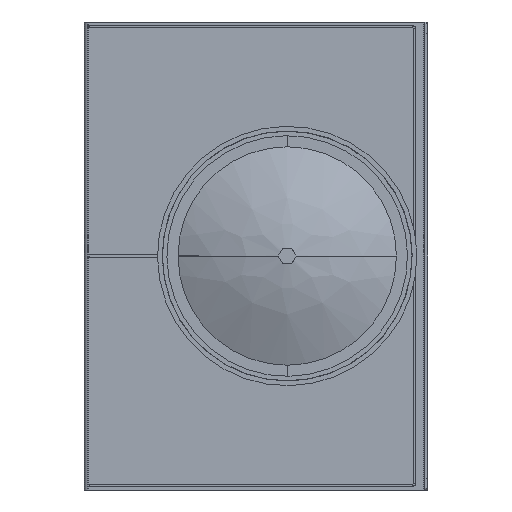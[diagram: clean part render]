
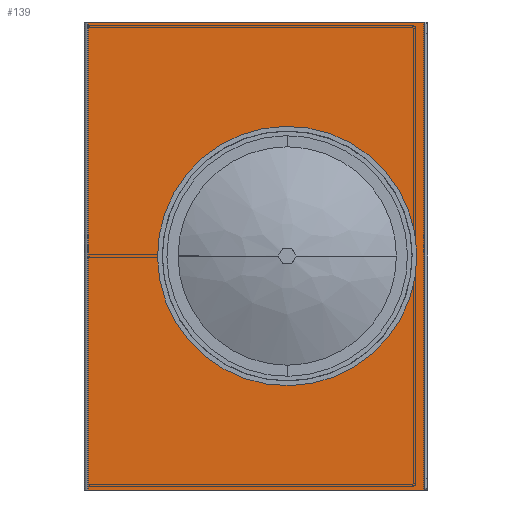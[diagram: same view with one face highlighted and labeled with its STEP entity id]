
A CAD part, left-side view. The second image highlights one B-rep face of the part: STEP entity #139.
In plain terms, the highlighted planar face has unit normal (-1, 0, 0).
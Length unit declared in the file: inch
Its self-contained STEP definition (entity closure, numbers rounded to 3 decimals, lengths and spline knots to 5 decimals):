
#9 = CARTESIAN_POINT ( 'NONE',  ( -30., -0.25, 30. ) ) ;
#37 = DIRECTION ( 'NONE',  ( 0., -1., 0. ) ) ;
#88 = DIRECTION ( 'NONE',  ( 0., -1., 0. ) ) ;
#106 = ORIENTED_EDGE ( 'NONE', *, *, #6501, .F. ) ;
#135 = CIRCLE ( 'NONE', #4062, 7. ) ;
#139 = ADVANCED_FACE ( 'NONE', ( #1958, #1882 ), #3464, .T. ) ;
#145 = EDGE_LOOP ( 'NONE', ( #1661, #4749 ) ) ;
#406 = EDGE_CURVE ( 'NONE', #4535, #2182, #5424, .T. ) ;
#439 = AXIS2_PLACEMENT_3D ( 'NONE', #5538, #6447, #6421 ) ;
#462 = LINE ( 'NONE', #9, #3647 ) ;
#592 = LINE ( 'NONE', #2532, #5128 ) ;
#601 = DIRECTION ( 'NONE',  ( 0., 1., 0. ) ) ;
#684 = LINE ( 'NONE', #3778, #5415 ) ;
#959 = ORIENTED_EDGE ( 'NONE', *, *, #3075, .F. ) ;
#1003 = CARTESIAN_POINT ( 'NONE',  ( -30., -21.75, 0. ) ) ;
#1031 = CARTESIAN_POINT ( 'NONE',  ( -30., 0., 0. ) ) ;
#1049 = CARTESIAN_POINT ( 'NONE',  ( -30., -6., 15. ) ) ;
#1241 = DIRECTION ( 'NONE',  ( 0., 1., 0. ) ) ;
#1480 = EDGE_CURVE ( 'NONE', #2182, #4535, #135, .T. ) ;
#1494 = CARTESIAN_POINT ( 'NONE',  ( -30., -20., 15. ) ) ;
#1660 = CARTESIAN_POINT ( 'NONE',  ( -30., -13., 15. ) ) ;
#1661 = ORIENTED_EDGE ( 'NONE', *, *, #406, .F. ) ;
#1882 = FACE_OUTER_BOUND ( 'NONE', #5721, .T. ) ;
#1958 = FACE_BOUND ( 'NONE', #145, .T. ) ;
#2182 = VERTEX_POINT ( 'NONE', #1049 ) ;
#2211 = ORIENTED_EDGE ( 'NONE', *, *, #3356, .T. ) ;
#2245 = VERTEX_POINT ( 'NONE', #5860 ) ;
#2333 = VERTEX_POINT ( 'NONE', #1003 ) ;
#2467 = DIRECTION ( 'NONE',  ( 0., 0., -1. ) ) ;
#2529 = DIRECTION ( 'NONE',  ( -1., 0., 0. ) ) ;
#2532 = CARTESIAN_POINT ( 'NONE',  ( -30., -21.75, 30. ) ) ;
#2702 = VERTEX_POINT ( 'NONE', #5188 ) ;
#3074 = LINE ( 'NONE', #1031, #4564 ) ;
#3075 = EDGE_CURVE ( 'NONE', #2333, #2245, #3074, .T. ) ;
#3356 = EDGE_CURVE ( 'NONE', #4224, #2245, #462, .T. ) ;
#3464 = PLANE ( 'NONE',  #439 ) ;
#3592 = DIRECTION ( 'NONE',  ( -1., 0., 0. ) ) ;
#3647 = VECTOR ( 'NONE', #2467, 39.37008 ) ;
#3778 = CARTESIAN_POINT ( 'NONE',  ( -30., 0., 30. ) ) ;
#4062 = AXIS2_PLACEMENT_3D ( 'NONE', #4590, #3592, #88 ) ;
#4171 = AXIS2_PLACEMENT_3D ( 'NONE', #1660, #2529, #37 ) ;
#4224 = VERTEX_POINT ( 'NONE', #4723 ) ;
#4345 = EDGE_CURVE ( 'NONE', #2702, #4224, #684, .T. ) ;
#4535 = VERTEX_POINT ( 'NONE', #1494 ) ;
#4564 = VECTOR ( 'NONE', #601, 39.37008 ) ;
#4590 = CARTESIAN_POINT ( 'NONE',  ( -30., -13., 15. ) ) ;
#4606 = DIRECTION ( 'NONE',  ( 0., 0., -1. ) ) ;
#4723 = CARTESIAN_POINT ( 'NONE',  ( -30., -0.25, 30. ) ) ;
#4749 = ORIENTED_EDGE ( 'NONE', *, *, #1480, .F. ) ;
#5128 = VECTOR ( 'NONE', #4606, 39.37008 ) ;
#5188 = CARTESIAN_POINT ( 'NONE',  ( -30., -21.75, 30. ) ) ;
#5257 = ORIENTED_EDGE ( 'NONE', *, *, #4345, .T. ) ;
#5415 = VECTOR ( 'NONE', #1241, 39.37008 ) ;
#5424 = CIRCLE ( 'NONE', #4171, 7. ) ;
#5538 = CARTESIAN_POINT ( 'NONE',  ( -30., 0., 30. ) ) ;
#5721 = EDGE_LOOP ( 'NONE', ( #959, #106, #5257, #2211 ) ) ;
#5860 = CARTESIAN_POINT ( 'NONE',  ( -30., -0.25, 0. ) ) ;
#6421 = DIRECTION ( 'NONE',  ( 0., -1., 0. ) ) ;
#6447 = DIRECTION ( 'NONE',  ( -1., 0., 0. ) ) ;
#6501 = EDGE_CURVE ( 'NONE', #2702, #2333, #592, .T. ) ;
